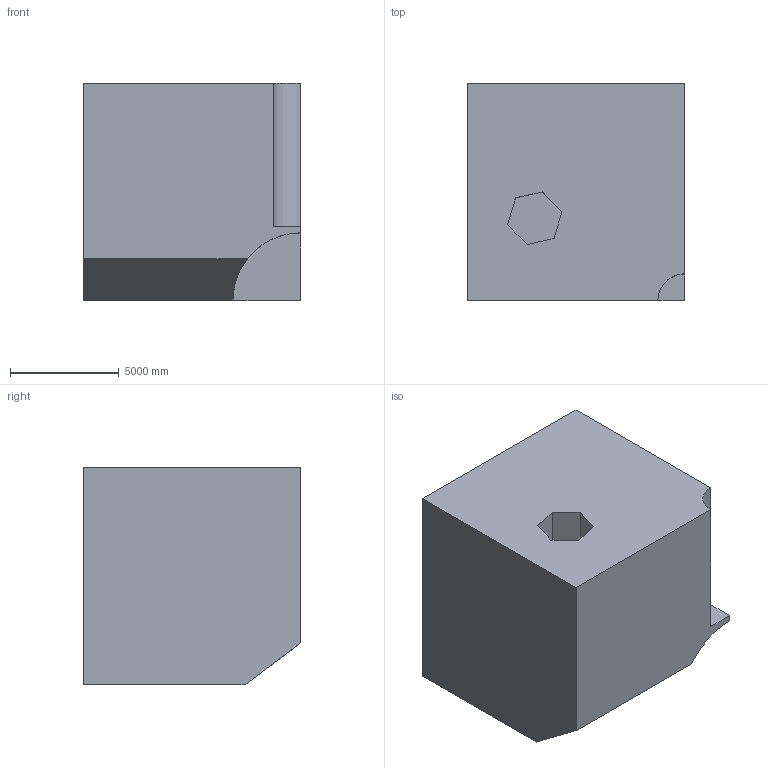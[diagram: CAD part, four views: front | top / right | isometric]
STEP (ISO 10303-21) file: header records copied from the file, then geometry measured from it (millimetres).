
FILE_DESCRIPTION (( 'STEP AP203' ), '1' );
FILE_NAME ('137.STEP', '2022-09-06T13:22:13', ( 'user' ), ( '' ), 'SwSTEP 2.0', 'SolidWorks 2021', '' );
FILE_SCHEMA (( 'CONFIG_CONTROL_DESIGN' ));
Length unit declared in the file: centimetre
Products named in the file (1): 137
Bounding box: 10000 x 10000 x 10000 mm (x, y, z)
Volume: 932574317220.5 mm3; surface area: 608172628.1 mm2
Topology: 1 solids, 1 shells, 18 faces, 45 edges, 30 vertices
Faces by surface type: plane 16, cylinder 2
Entity records: 610 total; most frequent: CARTESIAN_POINT 97, ORIENTED_EDGE 90, DIRECTION 86, EDGE_CURVE 45, VECTOR 40, LINE 40, VERTEX_POINT 30, AXIS2_PLACEMENT_3D 23
